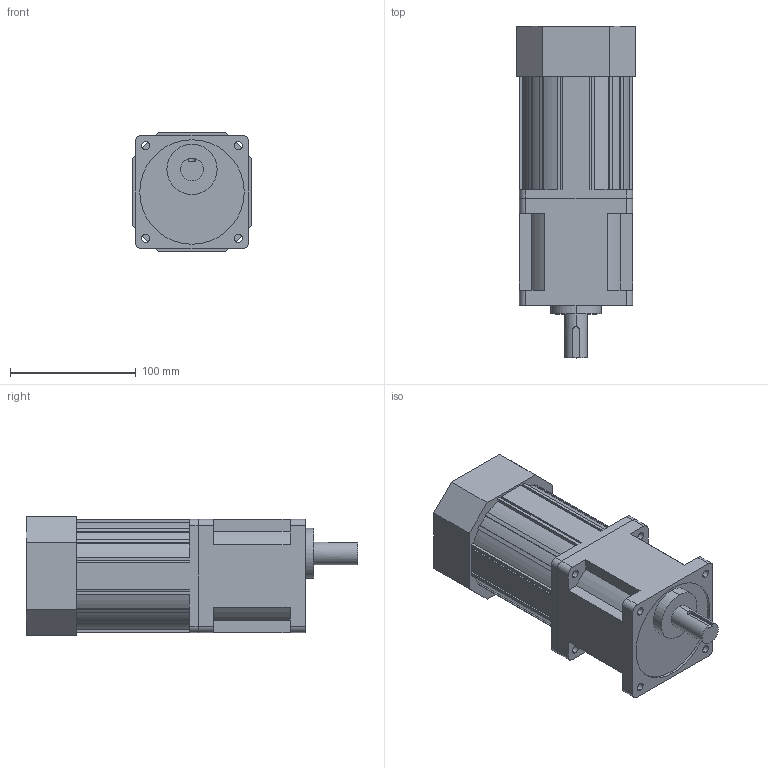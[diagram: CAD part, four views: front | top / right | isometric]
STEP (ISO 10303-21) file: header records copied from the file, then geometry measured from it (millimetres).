
FILE_DESCRIPTION (( 'STEP AP203' ), '1' );
FILE_NAME ('L9UK003B + L9I90PBH.STEP', '2018-09-20T05:33:39', ( '' ), ( '' ), 'SwSTEP 2.0', 'SolidWorks 2017', '' );
FILE_SCHEMA (( 'CONFIG_CONTROL_DESIGN' ));
Length unit declared in the file: millimetre
Products named in the file (1): L9UK003B + L9I90PBH
Bounding box: 94 x 264 x 94 mm (x, y, z)
Volume: 1570821 mm3; surface area: 119065.3 mm2
Topology: 2 solids, 2 shells, 170 faces, 486 edges, 324 vertices
Faces by surface type: plane 103, cylinder 67
Entity records: 5712 total; most frequent: CARTESIAN_POINT 1011, ORIENTED_EDGE 972, DIRECTION 959, EDGE_CURVE 486, VECTOR 351, LINE 351, VERTEX_POINT 324, AXIS2_PLACEMENT_3D 304
